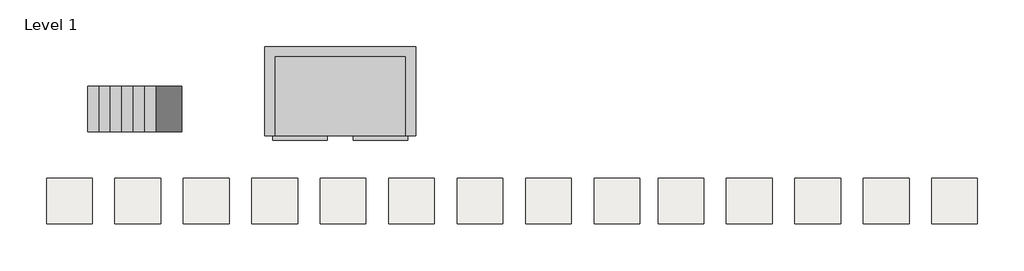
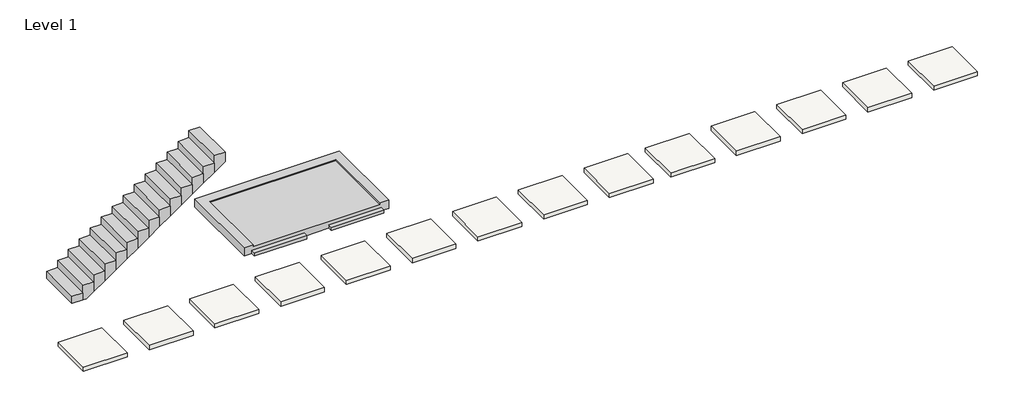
# One storey: 14 slabs, 1 proxy, 1 stair flight.
"""IFC4 building model written with IfcOpenShell, lengths in millimetres."""

from ifc_helpers import new_model, si_unit, frame, origin, place, context, project, spatial, polyline, outline, extrude, faceted_brep, transform, mapped, element, save
from components import proxy_300_24_isr_concrete_platform_double_platform_9cdc8692

model = new_model("IFC4")

# Units and contexts
model_context = context("Model", 3, world=origin())
ifc_project = project(units=[si_unit("LENGTHUNIT", "METRE", prefix="MILLI")], contexts=[model_context])

# Site, building, storey
site = spatial("IfcSite", under=ifc_project)
building = spatial("IfcBuilding", under=site)
storey = spatial("IfcBuildingStorey", under=building, Name="Level 1", Elevation=0.0)

# Proxy
placement = place(None, origin())
proxy_300_24_isr_concrete_platform_double_platform_shape = proxy_300_24_isr_concrete_platform_double_platform_9cdc8692(model_context)
element("IfcBuildingElementProxy", 1, Name="300_24_ISR_concrete_platform : double platform", ObjectType="300_24_ISR_concrete_platform : double platform", at=placement, inside=storey, context=model_context, shape_type="MappedRepresentation", body=[
    mapped(proxy_300_24_isr_concrete_platform_double_platform_shape, transform((-652.5441241, 2827.5413771, 0.0), x_axis=(1.0, 0.0, 0.0), y_axis=(0.0, 1.0, 0.0), z_axis=(0.0, 0.0, 1.0))),
])

# Slabs
element("IfcSlab", 2, ObjectType="Generic 100mm", at=placement, inside=storey, context=model_context, shape_type="SweptSolid", body=[
    extrude(outline(polyline([(-3088.5953778, 89.4387512), (-3088.5953778, -910.5612488), (-4088.5953778, -910.5612488), (-4088.5953778, 89.4387512), (-3088.5953778, 89.4387512)])), frame((0.0, 0.0, -100.0), z_axis=(0.0, 0.0, 1.0), x_axis=(1.0, 0.0, 0.0)), (0.0, 0.0, 1.0), 100.0),
])
element("IfcSlab", 3, ObjectType="Generic 100mm", at=placement, inside=storey, context=model_context, shape_type="SweptSolid", body=[
    extrude(outline(polyline([(-1588.5953778, 89.4387512), (-1588.5953778, -910.5612488), (-2588.5953778, -910.5612488), (-2588.5953778, 89.4387512), (-1588.5953778, 89.4387512)])), frame((0.0, 0.0, -100.0), z_axis=(0.0, 0.0, 1.0), x_axis=(1.0, 0.0, 0.0)), (0.0, 0.0, 1.0), 100.0),
])
element("IfcSlab", 4, ObjectType="Generic 100mm", at=placement, inside=storey, context=model_context, shape_type="SweptSolid", body=[
    extrude(outline(polyline([(-88.5953778, 89.4387512), (-88.5953778, -910.5612488), (-1088.5953778, -910.5612488), (-1088.5953778, 89.4387512), (-88.5953778, 89.4387512)])), frame((0.0, 0.0, -100.0), z_axis=(0.0, 0.0, 1.0), x_axis=(1.0, 0.0, 0.0)), (0.0, 0.0, 1.0), 100.0),
])
element("IfcSlab", 5, ObjectType="Generic 100mm", at=placement, inside=storey, context=model_context, shape_type="SweptSolid", body=[
    extrude(outline(polyline([(1411.4046222, 89.4387512), (1411.4046222, -910.5612488), (411.4046222, -910.5612488), (411.4046222, 89.4387512), (1411.4046222, 89.4387512)])), frame((0.0, 0.0, -100.0), z_axis=(0.0, 0.0, 1.0), x_axis=(1.0, 0.0, 0.0)), (0.0, 0.0, 1.0), 100.0),
])
element("IfcSlab", 6, ObjectType="Generic 100mm", at=placement, inside=storey, context=model_context, shape_type="SweptSolid", body=[
    extrude(outline(polyline([(2911.4046222, 89.4387512), (2911.4046222, -910.5612488), (1911.4046222, -910.5612488), (1911.4046222, 89.4387512), (2911.4046222, 89.4387512)])), frame((0.0, 0.0, -100.0), z_axis=(0.0, 0.0, 1.0), x_axis=(1.0, 0.0, 0.0)), (0.0, 0.0, 1.0), 100.0),
])
element("IfcSlab", 7, ObjectType="Generic 100mm", at=placement, inside=storey, context=model_context, shape_type="SweptSolid", body=[
    extrude(outline(polyline([(4411.4046222, 89.4387512), (4411.4046222, -910.5612488), (3411.4046222, -910.5612488), (3411.4046222, 89.4387512), (4411.4046222, 89.4387512)])), frame((0.0, 0.0, -100.0), z_axis=(0.0, 0.0, 1.0), x_axis=(1.0, 0.0, 0.0)), (0.0, 0.0, 1.0), 100.0),
])
element("IfcSlab", 8, ObjectType="Generic 100mm", at=placement, inside=storey, context=model_context, shape_type="SweptSolid", body=[
    extrude(outline(polyline([(5911.4046222, 89.4387512), (5911.4046222, -910.5612488), (4911.4046222, -910.5612488), (4911.4046222, 89.4387512), (5911.4046222, 89.4387512)])), frame((0.0, 0.0, -100.0), z_axis=(0.0, 0.0, 1.0), x_axis=(1.0, 0.0, 0.0)), (0.0, 0.0, 1.0), 100.0),
])
element("IfcSlab", 9, ObjectType="Generic 100mm", at=placement, inside=storey, context=model_context, shape_type="SweptSolid", body=[
    extrude(outline(polyline([(7411.4046222, 89.4387512), (7411.4046222, -910.5612488), (6411.4046222, -910.5612488), (6411.4046222, 89.4387512), (7411.4046222, 89.4387512)])), frame((0.0, 0.0, -100.0), z_axis=(0.0, 0.0, 1.0), x_axis=(1.0, 0.0, 0.0)), (0.0, 0.0, 1.0), 100.0),
])
element("IfcSlab", 10, ObjectType="Generic 100mm", at=placement, inside=storey, context=model_context, shape_type="SweptSolid", body=[
    extrude(outline(polyline([(-4588.5953778, 89.4387512), (-4588.5953778, -910.5612488), (-5588.5953778, -910.5612488), (-5588.5953778, 89.4387512), (-4588.5953778, 89.4387512)])), frame((0.0, 0.0, -100.0), z_axis=(0.0, 0.0, 1.0), x_axis=(1.0, 0.0, 0.0)), (0.0, 0.0, 1.0), 100.0),
])
element("IfcSlab", 11, ObjectType="Generic 100mm", at=placement, inside=storey, context=model_context, shape_type="SweptSolid", body=[
    extrude(outline(polyline([(8811.4046222, 89.4387512), (8811.4046222, -910.5612488), (7811.4046222, -910.5612488), (7811.4046222, 89.4387512), (8811.4046222, 89.4387512)])), frame((0.0, 0.0, -100.0), z_axis=(0.0, 0.0, 1.0), x_axis=(1.0, 0.0, 0.0)), (0.0, 0.0, 1.0), 100.0),
])
element("IfcSlab", 12, ObjectType="Generic 100mm", at=placement, inside=storey, context=model_context, shape_type="SweptSolid", body=[
    extrude(outline(polyline([(10311.4046222, 89.4387512), (10311.4046222, -910.5612488), (9311.4046222, -910.5612488), (9311.4046222, 89.4387512), (10311.4046222, 89.4387512)])), frame((0.0, 0.0, -100.0), z_axis=(0.0, 0.0, 1.0), x_axis=(1.0, 0.0, 0.0)), (0.0, 0.0, 1.0), 100.0),
])
element("IfcSlab", 13, ObjectType="Generic 100mm", at=placement, inside=storey, context=model_context, shape_type="SweptSolid", body=[
    extrude(outline(polyline([(11811.4046222, 89.4387512), (11811.4046222, -910.5612488), (10811.4046222, -910.5612488), (10811.4046222, 89.4387512), (11811.4046222, 89.4387512)])), frame((0.0, 0.0, -100.0), z_axis=(0.0, 0.0, 1.0), x_axis=(1.0, 0.0, 0.0)), (0.0, 0.0, 1.0), 100.0),
])
element("IfcSlab", 14, ObjectType="Generic 100mm", at=placement, inside=storey, context=model_context, shape_type="SweptSolid", body=[
    extrude(outline(polyline([(13311.4046222, 89.4387512), (13311.4046222, -910.5612488), (12311.4046222, -910.5612488), (12311.4046222, 89.4387512), (13311.4046222, 89.4387512)])), frame((0.0, 0.0, -100.0), z_axis=(0.0, 0.0, 1.0), x_axis=(1.0, 0.0, 0.0)), (0.0, 0.0, 1.0), 100.0),
])
element("IfcSlab", 15, ObjectType="Generic 100mm", at=placement, inside=storey, context=model_context, shape_type="SweptSolid", body=[
    extrude(outline(polyline([(14811.4046222, 89.4387512), (14811.4046222, -910.5612488), (13811.4046222, -910.5612488), (13811.4046222, 89.4387512), (14811.4046222, 89.4387512)])), frame((0.0, 0.0, -100.0), z_axis=(0.0, 0.0, 1.0), x_axis=(1.0, 0.0, 0.0)), (0.0, 0.0, 1.0), 100.0),
])

# Stair flight
element("IfcStairFlight", 16, ObjectType="190mm Depth", at=placement, inside=storey, context=model_context, shape_type="Brep", body=[
    faceted_brep([(-4438.5953778, 2107.5413771, 173.9130435), (-4688.5953778, 2107.5413771, 173.9130435), (-4688.5953778, 1107.5413771, 173.9130435), (-4438.5953778, 1107.5413771, 173.9130435), (-4438.5953778, 2107.5413771, 0.0), (-4688.5953778, 2107.5413771, 0.0), (-4688.5953778, 1107.5413771, 0.0), (-4438.5953778, 1107.5413771, 0.0), (-4188.5953778, 2107.5413771, 347.826087), (-4438.5953778, 2107.5413771, 347.826087), (-4438.5953778, 1107.5413771, 347.826087), (-4188.5953778, 1107.5413771, 347.826087), (-4188.5953778, 2107.5413771, 116.3742706), (-4355.8833918, 2107.5413771, 0.0), (-4355.8833918, 1107.5413771, 0.0), (-4188.5953778, 1107.5413771, 116.3742706), (-3938.5953778, 2107.5413771, 521.7391304), (-4188.5953778, 2107.5413771, 521.7391304), (-4188.5953778, 1107.5413771, 521.7391304), (-3938.5953778, 1107.5413771, 521.7391304), (-3938.5953778, 2107.5413771, 290.2873141), (-3938.5953778, 1107.5413771, 290.2873141), (-3688.5953778, 2107.5413771, 695.6521739), (-3938.5953778, 2107.5413771, 695.6521739), (-3938.5953778, 1107.5413771, 695.6521739), (-3688.5953778, 1107.5413771, 695.6521739), (-3688.5953778, 2107.5413771, 464.2003576), (-3688.5953778, 1107.5413771, 464.2003576), (-3438.5953778, 2107.5413771, 869.5652174), (-3688.5953778, 2107.5413771, 869.5652174), (-3688.5953778, 1107.5413771, 869.5652174), (-3438.5953778, 1107.5413771, 869.5652174), (-3438.5953778, 2107.5413771, 638.113401), (-3438.5953778, 1107.5413771, 638.113401), (-3188.5953778, 2107.5413771, 1043.4782609), (-3438.5953778, 2107.5413771, 1043.4782609), (-3438.5953778, 1107.5413771, 1043.4782609), (-3188.5953778, 1107.5413771, 1043.4782609), (-3188.5953778, 2107.5413771, 812.0264445), (-3188.5953778, 1107.5413771, 812.0264445), (-2938.5953778, 2107.5413771, 1217.3913043), (-3188.5953778, 2107.5413771, 1217.3913043), (-3188.5953778, 1107.5413771, 1217.3913043), (-2938.5953778, 1107.5413771, 1217.3913043), (-2938.5953778, 2107.5413771, 985.939488), (-2938.5953778, 1107.5413771, 985.939488), (-2688.5953778, 2107.5413771, 1391.3043478), (-2938.5953778, 2107.5413771, 1391.3043478), (-2938.5953778, 1107.5413771, 1391.3043478), (-2688.5953778, 1107.5413771, 1391.3043478), (-2688.5953778, 2107.5413771, 1159.8525315), (-2688.5953778, 1107.5413771, 1159.8525315), (-2438.5953778, 2107.5413771, 1565.2173913), (-2688.5953778, 2107.5413771, 1565.2173913), (-2688.5953778, 1107.5413771, 1565.2173913), (-2438.5953778, 1107.5413771, 1565.2173913), (-2438.5953778, 2107.5413771, 1333.765575), (-2438.5953778, 1107.5413771, 1333.765575), (-2188.5953778, 2107.5413771, 1739.1304348), (-2438.5953778, 2107.5413771, 1739.1304348), (-2438.5953778, 1107.5413771, 1739.1304348), (-2188.5953778, 1107.5413771, 1739.1304348), (-2188.5953778, 2107.5413771, 1507.6786184), (-2188.5953778, 1107.5413771, 1507.6786184), (-1938.5953778, 2107.5413771, 1913.0434783), (-2188.5953778, 2107.5413771, 1913.0434783), (-2188.5953778, 1107.5413771, 1913.0434783), (-1938.5953778, 1107.5413771, 1913.0434783), (-1938.5953778, 2107.5413771, 1681.5916619), (-1938.5953778, 1107.5413771, 1681.5916619), (-1688.5953778, 2107.5413771, 2086.9565217), (-1938.5953778, 2107.5413771, 2086.9565217), (-1938.5953778, 1107.5413771, 2086.9565217), (-1688.5953778, 1107.5413771, 2086.9565217), (-1688.5953778, 2107.5413771, 1855.5047054), (-1688.5953778, 1107.5413771, 1855.5047054), (-1438.5953778, 2107.5413771, 2260.8695652), (-1688.5953778, 2107.5413771, 2260.8695652), (-1688.5953778, 1107.5413771, 2260.8695652), (-1438.5953778, 1107.5413771, 2260.8695652), (-1438.5953778, 2107.5413771, 2029.4177489), (-1438.5953778, 1107.5413771, 2029.4177489), (-1188.5953778, 2107.5413771, 2203.3307924), (-1188.5953778, 1107.5413771, 2203.3307924), (-1188.5953778, 2107.5413771, 2434.7826087), (-1438.5953778, 2107.5413771, 2434.7826087), (-1438.5953778, 1107.5413771, 2434.7826087), (-1188.5953778, 1107.5413771, 2434.7826087)], [[[0, 1, 2, 3]], [[1, 0, 4, 5]], [[2, 1, 5, 6]], [[3, 2, 6, 7]], [[8, 9, 10, 11]], [[4, 0, 9, 8, 12, 13]], [[0, 3, 10, 9]], [[3, 7, 14, 15, 11, 10]], [[16, 17, 18, 19]], [[17, 16, 20, 12, 8]], [[8, 11, 18, 17]], [[19, 18, 11, 15, 21]], [[22, 23, 24, 25]], [[23, 22, 26, 20, 16]], [[16, 19, 24, 23]], [[25, 24, 19, 21, 27]], [[28, 29, 30, 31]], [[29, 28, 32, 26, 22]], [[22, 25, 30, 29]], [[31, 30, 25, 27, 33]], [[34, 35, 36, 37]], [[35, 34, 38, 32, 28]], [[28, 31, 36, 35]], [[37, 36, 31, 33, 39]], [[40, 41, 42, 43]], [[41, 40, 44, 38, 34]], [[34, 37, 42, 41]], [[43, 42, 37, 39, 45]], [[46, 47, 48, 49]], [[47, 46, 50, 44, 40]], [[40, 43, 48, 47]], [[49, 48, 43, 45, 51]], [[52, 53, 54, 55]], [[53, 52, 56, 50, 46]], [[46, 49, 54, 53]], [[55, 54, 49, 51, 57]], [[58, 59, 60, 61]], [[59, 58, 62, 56, 52]], [[52, 55, 60, 59]], [[61, 60, 55, 57, 63]], [[64, 65, 66, 67]], [[65, 64, 68, 62, 58]], [[58, 61, 66, 65]], [[67, 66, 61, 63, 69]], [[70, 71, 72, 73]], [[71, 70, 74, 68, 64]], [[64, 67, 72, 71]], [[73, 72, 67, 69, 75]], [[76, 77, 78, 79]], [[77, 76, 80, 74, 70]], [[70, 73, 78, 77]], [[79, 78, 73, 75, 81]], [[5, 4, 13, 14, 7, 6]], [[14, 13, 12, 20, 26, 32, 38, 44, 50, 56, 62, 68, 74, 80, 82, 83, 81, 75, 69, 63, 57, 51, 45, 39, 33, 27, 21, 15]], [[84, 85, 86, 87]], [[85, 84, 82, 80, 76]], [[76, 79, 86, 85]], [[87, 86, 79, 81, 83]], [[84, 87, 83, 82]]]),
])

save(model, "model.ifc")
